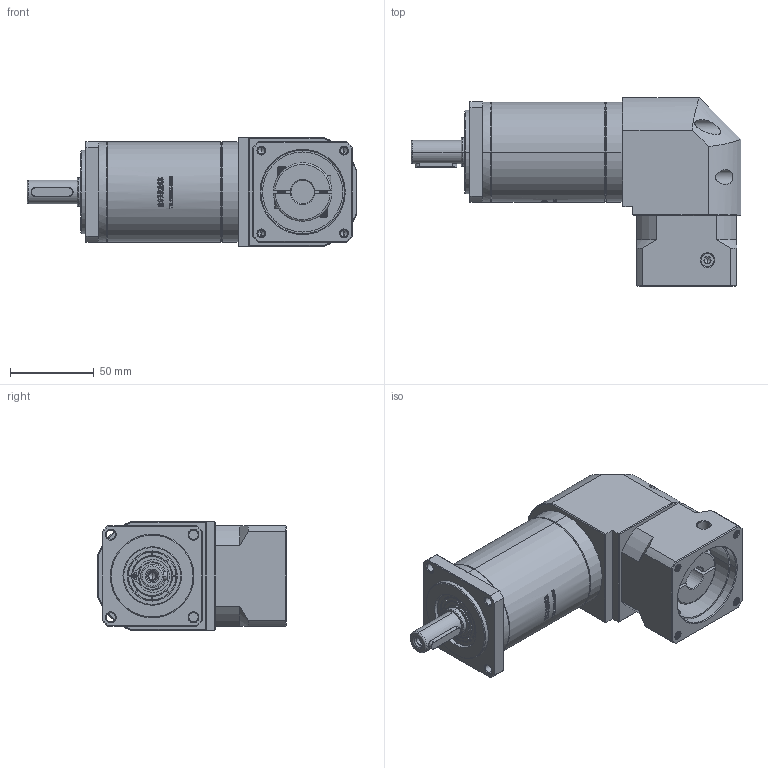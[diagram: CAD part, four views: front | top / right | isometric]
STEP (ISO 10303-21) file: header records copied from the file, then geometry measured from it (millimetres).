
FILE_DESCRIPTION (( 'STEP AP214' ), '1' );
FILE_NAME ('ZFR60-D14-L3-14-50-70-M5.STEP', '2022-04-20T09:04:03', ( '' ), ( 'Microsoft' ), 'SwSTEP 2.0', 'SolidWorks 2016', '' );
FILE_SCHEMA (( 'AUTOMOTIVE_DESIGN' ));
Length unit declared in the file: millimetre
Products named in the file (1): ZFR60-D14-L3-14-50-70-M5
Bounding box: 197.5 x 112.7 x 65 mm (x, y, z)
Volume: 635385.3 mm3; surface area: 85398.6 mm2
Topology: 5 solids, 6 shells, 2692 faces, 7316 edges, 4761 vertices
Faces by surface type: plane 1397, bspline 591, cylinder 402, cone 288, torus 14
Entity records: 149284 total; most frequent: CARTESIAN_POINT 57450, ORIENTED_EDGE 14588, DIRECTION 10444, EDGE_CURVE 7294, VERTEX_POINT 4761, VECTOR 4396, LINE 4396, AXIS2_PLACEMENT_3D 3024
